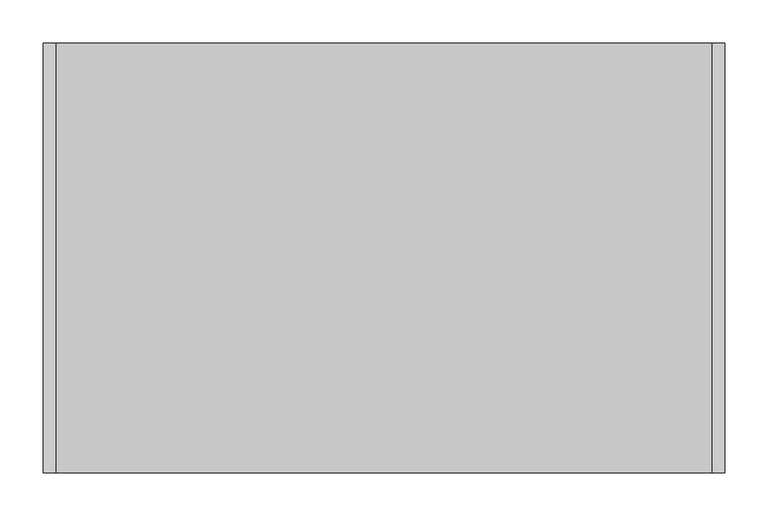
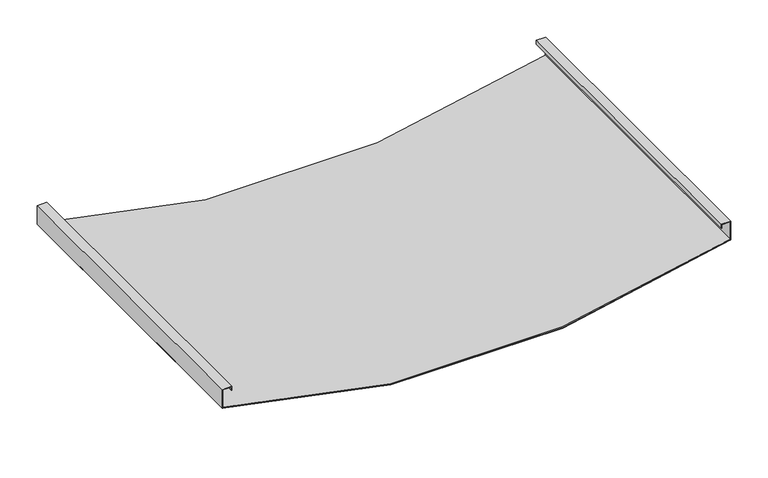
"""IFC4 building model written with IfcOpenShell, lengths in millimetres: proxy geometry, durlum_S7_DOMUS_ALT_panel : durlum_S7_DOMUS_panel."""

from ifc_helpers import new_model, si_unit, point, frame, frame_2d, origin, place, context, project, spatial, polyline, circle_curve, trimmed, segment, composite_curve, outline, extrude, source, transform, mapped, element, save


def generic_models_075569b2(model_context):
    return source(origin(), model_context, "Body", "SweptSolid", [
        extrude(outline(composite_curve([segment(polyline([(0.7370548, 395.0), (1.783906, 395.0)]), True, "CONTINUOUS"), segment(trimmed(circle_curve(frame_2d((1276.8, 0.0)), 1334.8), [point((1.783906, 395.0))], [point((1.783906, -395.0))], True, "CARTESIAN"), True, "CONTINUOUS"), segment(polyline([(1.783906, -395.0), (0.7370548, -395.0)]), True, "CONTINUOUS"), segment(trimmed(circle_curve(frame_2d((1276.8, 0.0)), 1335.8), [point((0.7370548, -395.0))], [point((0.7370548, 395.0))], False, "CARTESIAN"), True, "CONTINUOUS")], self_intersect=False)), frame((0.0, -249.75, 0.0), z_axis=(0.0, 1.0, 0.0), x_axis=(0.0, 0.0, 1.0)), (0.0, 0.0, 1.0), 499.5),
        extrude(outline(polyline([(31.0, -396.0), (0.0, -396.0), (0.0, -395.0), (30.0, -395.0), (30.0, -382.0), (24.5, -382.0), (24.5, -381.0), (31.0, -381.0), (31.0, -396.0)])), frame((0.0, -249.75, 0.0), z_axis=(0.0, 1.0, 0.0), x_axis=(0.0, 0.0, 1.0)), (0.0, 0.0, 1.0), 499.5),
        extrude(outline(polyline([(31.0, 396.0), (31.0, 381.0), (24.5, 381.0), (24.5, 382.0), (30.0, 382.0), (30.0, 395.0), (0.0, 395.0), (0.0, 396.0), (31.0, 396.0)])), frame((0.0, -249.75, 0.0), z_axis=(0.0, 1.0, 0.0), x_axis=(0.0, 0.0, 1.0)), (0.0, 0.0, 1.0), 499.5),
        extrude(outline(composite_curve([segment(trimmed(circle_curve(frame_2d((1276.8, 0.0)), 1336.8), [point((0.0, -396.0))], [point((0.0, 396.0))], False, "CARTESIAN"), True, "CONTINUOUS"), segment(polyline([(0.0, 396.0), (1.0470302, 396.0)]), True, "CONTINUOUS"), segment(trimmed(circle_curve(frame_2d((1276.8, 0.0)), 1335.8), [point((1.0470302, 396.0))], [point((1.0470302, -396.0))], True, "CARTESIAN"), True, "CONTINUOUS"), segment(polyline([(1.0470302, -396.0), (0.0, -396.0)]), True, "CONTINUOUS")], self_intersect=False)), frame((0.0, -249.75, 0.0), z_axis=(0.0, 1.0, 0.0), x_axis=(0.0, 0.0, 1.0)), (0.0, 0.0, 1.0), 499.5),
    ])


if __name__ == "__main__":
    model = new_model("IFC4")
    model_context = context("Model", 3, world=origin())
    ifc_project = project(units=[si_unit("LENGTHUNIT", "METRE", prefix="MILLI")], contexts=[model_context])
    site = spatial("IfcSite", under=ifc_project)
    building = spatial("IfcBuilding", under=site)
    placement = place(None, origin())
    generic_models_shape = generic_models_075569b2(model_context)
    element("IfcBuildingElementProxy", 1, Name="durlum_S7_DOMUS_ALT_panel : durlum_S7_DOMUS_panel", ObjectType="durlum_S7_DOMUS_ALT_panel : durlum_S7_DOMUS_panel", at=placement, inside=building, context=model_context, shape_type="MappedRepresentation", body=[
        mapped(generic_models_shape, transform((0.0, 0.0, 0.0), x_axis=(1.0, 0.0, 0.0), y_axis=(0.0, 1.0, 0.0), z_axis=(0.0, 0.0, 1.0))),
    ])
    save(model, "model.ifc")
